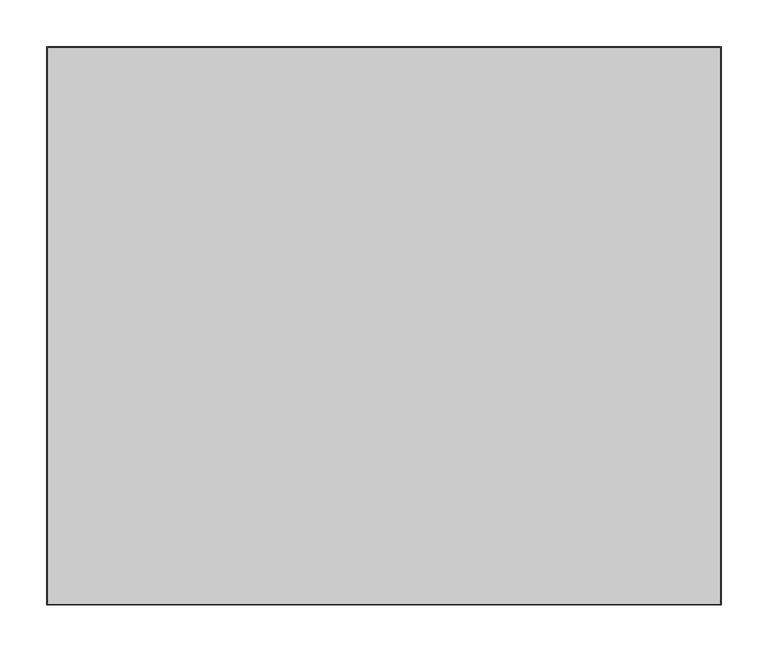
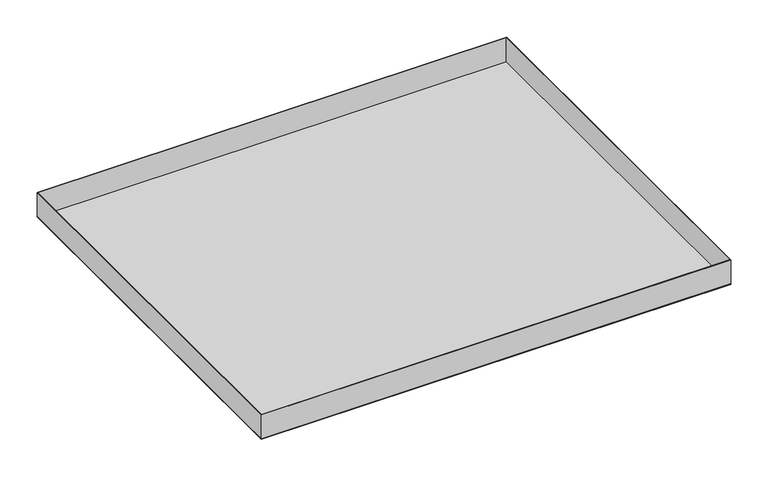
"""IFC4 building model written with IfcOpenShell, lengths in millimetres: proxy geometry, durlum_S5-150_RHOMBOS_panel : durlum_S5-150_RHOMBOS_panel_wall_length_cut."""

from ifc_helpers import new_model, si_unit, frame, origin, origin_with_axes, place, context, project, spatial, polyline, outline, extrude, source, transform, mapped, element, save


def generic_models_ecb8dbbe(model_context):
    return source(origin(), model_context, "Body", "SweptSolid", [
        extrude(outline(polyline([(362.25, 299.75), (362.25, -299.75), (-362.25, -299.75), (-362.25, 299.75), (362.25, 299.75)]), holes=[polyline([(361.25, 298.75), (-361.25, 298.75), (-361.25, -298.75), (361.25, -298.75), (361.25, 298.75)])]), frame((0.0, 0.0, 1.0), z_axis=(0.0, 0.0, 1.0), x_axis=(1.0, 0.0, 0.0)), (0.0, 0.0, 1.0), 39.0),
        extrude(outline(polyline([(362.25, 299.75), (362.25, -299.75), (-362.25, -299.75), (-362.25, 299.75), (362.25, 299.75)])), origin_with_axes(), (0.0, 0.0, 1.0), 1.0),
    ])


if __name__ == "__main__":
    model = new_model("IFC4")
    model_context = context("Model", 3, world=origin())
    ifc_project = project(units=[si_unit("LENGTHUNIT", "METRE", prefix="MILLI")], contexts=[model_context])
    site = spatial("IfcSite", under=ifc_project)
    building = spatial("IfcBuilding", under=site)
    placement = place(None, origin())
    generic_models_shape = generic_models_ecb8dbbe(model_context)
    element("IfcBuildingElementProxy", 1, Name="durlum_S5-150_RHOMBOS_panel : durlum_S5-150_RHOMBOS_panel_wall_length_cut", ObjectType="durlum_S5-150_RHOMBOS_panel : durlum_S5-150_RHOMBOS_panel_wall_length_cut", at=placement, inside=building, context=model_context, shape_type="MappedRepresentation", body=[
        mapped(generic_models_shape, transform((0.0, 0.0, 0.0), x_axis=(1.0, 0.0, 0.0), y_axis=(0.0, 1.0, 0.0), z_axis=(0.0, 0.0, 1.0))),
    ])
    save(model, "model.ifc")
